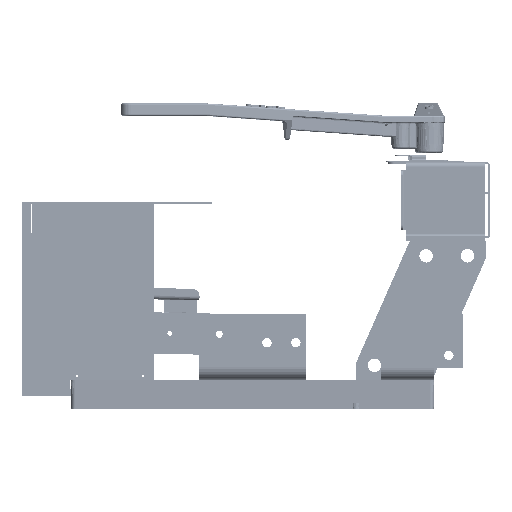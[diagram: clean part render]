
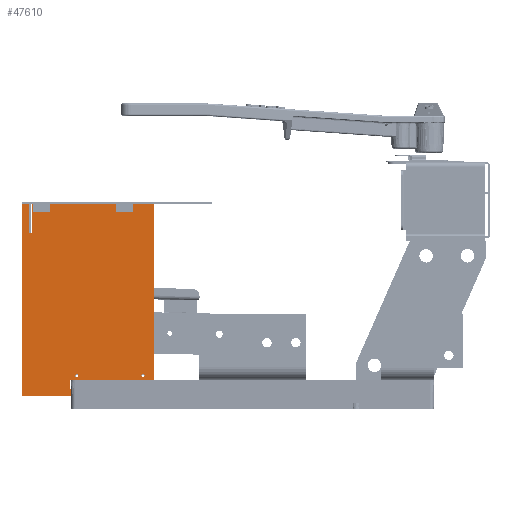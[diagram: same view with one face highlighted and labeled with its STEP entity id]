
A CAD part, left-side view. The second image highlights one B-rep face of the part: STEP entity #47610.
In plain terms, the highlighted planar face has unit normal (-1, 0, 0) as drawn and (0, 0, -1) by its records, which use the part's own axes.
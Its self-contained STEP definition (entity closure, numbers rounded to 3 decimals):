
#2311=FACE_BOUND('',#10297,.T.);
#2312=FACE_BOUND('',#10298,.T.);
#2313=FACE_BOUND('',#10299,.T.);
#2314=FACE_BOUND('',#10300,.T.);
#4047=CIRCLE('',#52447,0.097);
#4049=CIRCLE('',#52450,0.097);
#4051=CIRCLE('',#52453,0.097);
#4053=CIRCLE('',#52456,0.097);
#7162=FACE_OUTER_BOUND('',#10296,.T.);
#10296=EDGE_LOOP('',(#41656,#41657,#41658,#41659,#41660,#41661,#41662,#41663,
#41664,#41665,#41666,#41667));
#10297=EDGE_LOOP('',(#41668));
#10298=EDGE_LOOP('',(#41669));
#10299=EDGE_LOOP('',(#41670));
#10300=EDGE_LOOP('',(#41671));
#14356=LINE('',#83395,#18518);
#14360=LINE('',#83403,#18522);
#14363=LINE('',#83409,#18525);
#14366=LINE('',#83415,#18528);
#14369=LINE('',#83421,#18531);
#14372=LINE('',#83427,#18534);
#14375=LINE('',#83433,#18537);
#14378=LINE('',#83439,#18540);
#14381=LINE('',#83445,#18543);
#14384=LINE('',#83451,#18546);
#14387=LINE('',#83457,#18549);
#14390=LINE('',#83462,#18552);
#18518=VECTOR('',#64093,0.394);
#18522=VECTOR('',#64099,0.394);
#18525=VECTOR('',#64104,0.394);
#18528=VECTOR('',#64109,0.394);
#18531=VECTOR('',#64114,0.394);
#18534=VECTOR('',#64119,0.394);
#18537=VECTOR('',#64124,0.394);
#18540=VECTOR('',#64129,0.394);
#18543=VECTOR('',#64134,0.394);
#18546=VECTOR('',#64139,0.394);
#18549=VECTOR('',#64144,0.394);
#18552=VECTOR('',#64149,0.394);
#22829=VERTEX_POINT('',#83369);
#22831=VERTEX_POINT('',#83375);
#22833=VERTEX_POINT('',#83381);
#22835=VERTEX_POINT('',#83387);
#22837=VERTEX_POINT('',#83393);
#22838=VERTEX_POINT('',#83394);
#22841=VERTEX_POINT('',#83402);
#22843=VERTEX_POINT('',#83408);
#22845=VERTEX_POINT('',#83414);
#22847=VERTEX_POINT('',#83420);
#22849=VERTEX_POINT('',#83426);
#22851=VERTEX_POINT('',#83432);
#22853=VERTEX_POINT('',#83438);
#22855=VERTEX_POINT('',#83444);
#22857=VERTEX_POINT('',#83450);
#22859=VERTEX_POINT('',#83456);
#29209=EDGE_CURVE('',#22829,#22829,#4047,.T.);
#29212=EDGE_CURVE('',#22831,#22831,#4049,.T.);
#29215=EDGE_CURVE('',#22833,#22833,#4051,.T.);
#29218=EDGE_CURVE('',#22835,#22835,#4053,.T.);
#29221=EDGE_CURVE('',#22837,#22838,#14356,.T.);
#29225=EDGE_CURVE('',#22841,#22837,#14360,.T.);
#29228=EDGE_CURVE('',#22843,#22841,#14363,.T.);
#29231=EDGE_CURVE('',#22845,#22843,#14366,.T.);
#29234=EDGE_CURVE('',#22847,#22845,#14369,.T.);
#29237=EDGE_CURVE('',#22849,#22847,#14372,.T.);
#29240=EDGE_CURVE('',#22851,#22849,#14375,.T.);
#29243=EDGE_CURVE('',#22853,#22851,#14378,.T.);
#29246=EDGE_CURVE('',#22855,#22853,#14381,.T.);
#29249=EDGE_CURVE('',#22857,#22855,#14384,.T.);
#29252=EDGE_CURVE('',#22859,#22857,#14387,.T.);
#29255=EDGE_CURVE('',#22838,#22859,#14390,.T.);
#41656=ORIENTED_EDGE('',*,*,#29255,.F.);
#41657=ORIENTED_EDGE('',*,*,#29221,.F.);
#41658=ORIENTED_EDGE('',*,*,#29225,.F.);
#41659=ORIENTED_EDGE('',*,*,#29228,.F.);
#41660=ORIENTED_EDGE('',*,*,#29231,.F.);
#41661=ORIENTED_EDGE('',*,*,#29234,.F.);
#41662=ORIENTED_EDGE('',*,*,#29237,.F.);
#41663=ORIENTED_EDGE('',*,*,#29240,.F.);
#41664=ORIENTED_EDGE('',*,*,#29243,.F.);
#41665=ORIENTED_EDGE('',*,*,#29246,.F.);
#41666=ORIENTED_EDGE('',*,*,#29249,.F.);
#41667=ORIENTED_EDGE('',*,*,#29252,.F.);
#41668=ORIENTED_EDGE('',*,*,#29209,.T.);
#41669=ORIENTED_EDGE('',*,*,#29212,.T.);
#41670=ORIENTED_EDGE('',*,*,#29215,.T.);
#41671=ORIENTED_EDGE('',*,*,#29218,.T.);
#45266=PLANE('',#52471);
#47610=ADVANCED_FACE('',(#7162,#2311,#2312,#2313,#2314),#45266,.F.);
#52447=AXIS2_PLACEMENT_3D('',#83370,#64065,#64066);
#52450=AXIS2_PLACEMENT_3D('',#83376,#64072,#64073);
#52453=AXIS2_PLACEMENT_3D('',#83382,#64079,#64080);
#52456=AXIS2_PLACEMENT_3D('',#83388,#64086,#64087);
#52471=AXIS2_PLACEMENT_3D('',#83465,#64153,#64154);
#64065=DIRECTION('center_axis',(0.,0.,1.));
#64066=DIRECTION('ref_axis',(-1.,0.,0.));
#64072=DIRECTION('center_axis',(0.,0.,1.));
#64073=DIRECTION('ref_axis',(-1.,0.,0.));
#64079=DIRECTION('center_axis',(0.,0.,1.));
#64080=DIRECTION('ref_axis',(-1.,0.,0.));
#64086=DIRECTION('center_axis',(0.,0.,1.));
#64087=DIRECTION('ref_axis',(-1.,0.,0.));
#64093=DIRECTION('',(1.,0.,0.));
#64099=DIRECTION('',(0.,1.,0.));
#64104=DIRECTION('',(1.,0.,0.));
#64109=DIRECTION('',(0.,-1.,0.));
#64114=DIRECTION('',(-1.,0.,0.));
#64119=DIRECTION('',(0.,-1.,0.));
#64124=DIRECTION('',(1.,0.,0.));
#64129=DIRECTION('',(0.,-1.,0.));
#64134=DIRECTION('',(-1.,0.,0.));
#64139=DIRECTION('',(0.,1.,0.));
#64144=DIRECTION('',(1.,0.,0.));
#64149=DIRECTION('',(0.,-1.,0.));
#64153=DIRECTION('center_axis',(0.,0.,1.));
#64154=DIRECTION('ref_axis',(1.,0.,0.));
#83369=CARTESIAN_POINT('',(0.347,2.,0.));
#83370=CARTESIAN_POINT('Origin',(0.25,2.,0.));
#83375=CARTESIAN_POINT('',(0.347,7.,0.));
#83376=CARTESIAN_POINT('Origin',(0.25,7.,0.));
#83381=CARTESIAN_POINT('',(10.472,0.688,0.));
#83382=CARTESIAN_POINT('Origin',(10.375,0.688,0.));
#83387=CARTESIAN_POINT('',(10.472,4.688,0.));
#83388=CARTESIAN_POINT('Origin',(10.375,4.688,0.));
#83393=CARTESIAN_POINT('',(10.625,5.094,0.));
#83394=CARTESIAN_POINT('',(11.156,5.094,0.));
#83395=CARTESIAN_POINT('',(10.625,5.094,0.));
#83402=CARTESIAN_POINT('',(10.625,0.,0.));
#83403=CARTESIAN_POINT('',(10.625,0.,0.));
#83408=CARTESIAN_POINT('',(0.,0.,0.));
#83409=CARTESIAN_POINT('',(0.,0.,0.));
#83414=CARTESIAN_POINT('',(0.,7.422,0.));
#83415=CARTESIAN_POINT('',(0.,7.422,0.));
#83420=CARTESIAN_POINT('',(1.75,7.422,0.));
#83421=CARTESIAN_POINT('',(1.75,7.422,0.));
#83426=CARTESIAN_POINT('',(1.75,7.578,0.));
#83427=CARTESIAN_POINT('',(1.75,7.578,0.));
#83432=CARTESIAN_POINT('',(0.,7.578,0.));
#83433=CARTESIAN_POINT('',(0.,7.578,0.));
#83438=CARTESIAN_POINT('',(0.,8.,0.));
#83439=CARTESIAN_POINT('',(0.,8.,0.));
#83444=CARTESIAN_POINT('',(11.625,8.,0.));
#83445=CARTESIAN_POINT('',(11.625,8.,0.));
#83450=CARTESIAN_POINT('',(11.625,4.719,0.));
#83451=CARTESIAN_POINT('',(11.625,4.719,0.));
#83456=CARTESIAN_POINT('',(11.156,4.719,0.));
#83457=CARTESIAN_POINT('',(11.156,4.719,0.));
#83462=CARTESIAN_POINT('',(11.156,5.094,0.));
#83465=CARTESIAN_POINT('Origin',(5.401,4.41,0.));
